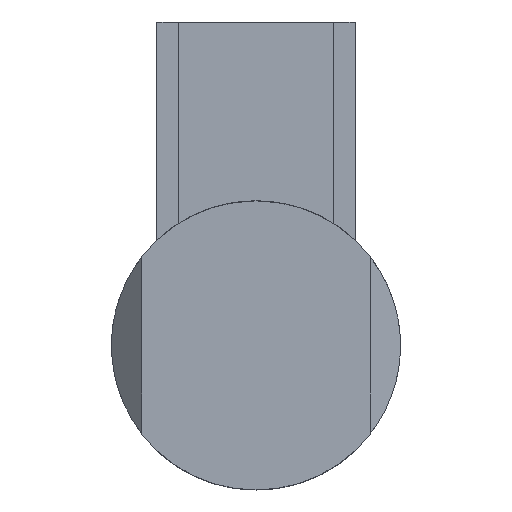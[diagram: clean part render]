
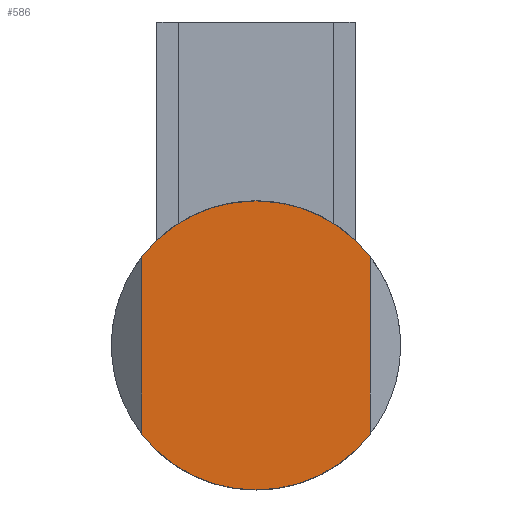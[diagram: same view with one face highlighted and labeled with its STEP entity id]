
A CAD part, front view. The second image highlights one B-rep face of the part: STEP entity #586.
In plain terms, the highlighted planar face has unit normal (0, -1, 0).
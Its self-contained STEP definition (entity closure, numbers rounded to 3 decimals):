
#18 = DIRECTION ( 'NONE',  ( 0., 1., 0. ) ) ;
#32 = CIRCLE ( 'NONE', #551, 7.15 ) ;
#36 = LINE ( 'NONE', #685, #842 ) ;
#124 = AXIS2_PLACEMENT_3D ( 'NONE', #249, #395, #825 ) ;
#169 = ORIENTED_EDGE ( 'NONE', *, *, #721, .F. ) ;
#211 = DIRECTION ( 'NONE',  ( 0., 0., 1. ) ) ;
#213 = CARTESIAN_POINT ( 'NONE',  ( -5.65, -6., 4.382 ) ) ;
#218 = DIRECTION ( 'NONE',  ( 0., 0., -1. ) ) ;
#249 = CARTESIAN_POINT ( 'NONE',  ( 0., -6., 0. ) ) ;
#255 = VECTOR ( 'NONE', #604, 1000. ) ;
#259 = EDGE_CURVE ( 'NONE', #836, #450, #32, .T. ) ;
#268 = CARTESIAN_POINT ( 'NONE',  ( 0., -6., 0. ) ) ;
#270 = FACE_OUTER_BOUND ( 'NONE', #453, .T. ) ;
#286 = VERTEX_POINT ( 'NONE', #674 ) ;
#301 = CARTESIAN_POINT ( 'NONE',  ( 5.65, -6., -4.382 ) ) ;
#309 = AXIS2_PLACEMENT_3D ( 'NONE', #436, #18, #511 ) ;
#311 = CIRCLE ( 'NONE', #309, 7.15 ) ;
#317 = VERTEX_POINT ( 'NONE', #337 ) ;
#318 = EDGE_CURVE ( 'NONE', #317, #286, #765, .T. ) ;
#327 = EDGE_CURVE ( 'NONE', #450, #526, #746, .T. ) ;
#337 = CARTESIAN_POINT ( 'NONE',  ( 0., -6., 7.15 ) ) ;
#342 = DIRECTION ( 'NONE',  ( 0., 1., 0. ) ) ;
#350 = ORIENTED_EDGE ( 'NONE', *, *, #682, .T. ) ;
#363 = ORIENTED_EDGE ( 'NONE', *, *, #327, .F. ) ;
#395 = DIRECTION ( 'NONE',  ( 0., 1., 0. ) ) ;
#434 = LINE ( 'NONE', #456, #255 ) ;
#435 = ORIENTED_EDGE ( 'NONE', *, *, #259, .F. ) ;
#436 = CARTESIAN_POINT ( 'NONE',  ( 0., -6., 0. ) ) ;
#438 = ORIENTED_EDGE ( 'NONE', *, *, #596, .T. ) ;
#450 = VERTEX_POINT ( 'NONE', #750 ) ;
#453 = EDGE_LOOP ( 'NONE', ( #169, #350, #363, #435, #438, #489 ) ) ;
#456 = CARTESIAN_POINT ( 'NONE',  ( 5.65, -6., 0. ) ) ;
#478 = DIRECTION ( 'NONE',  ( 0., 1., 0. ) ) ;
#480 = DIRECTION ( 'NONE',  ( 0., 0., 1. ) ) ;
#489 = ORIENTED_EDGE ( 'NONE', *, *, #318, .F. ) ;
#493 = AXIS2_PLACEMENT_3D ( 'NONE', #628, #673, #211 ) ;
#511 = DIRECTION ( 'NONE',  ( 0., 0., 1. ) ) ;
#513 = AXIS2_PLACEMENT_3D ( 'NONE', #780, #478, #480 ) ;
#526 = VERTEX_POINT ( 'NONE', #808 ) ;
#547 = DIRECTION ( 'NONE',  ( 0., 0., 1. ) ) ;
#551 = AXIS2_PLACEMENT_3D ( 'NONE', #268, #342, #547 ) ;
#586 = ADVANCED_FACE ( 'NONE', ( #270 ), #784, .F. ) ;
#596 = EDGE_CURVE ( 'NONE', #836, #286, #434, .T. ) ;
#604 = DIRECTION ( 'NONE',  ( 0., 0., 1. ) ) ;
#628 = CARTESIAN_POINT ( 'NONE',  ( 0., -6., 0. ) ) ;
#671 = VERTEX_POINT ( 'NONE', #213 ) ;
#673 = DIRECTION ( 'NONE',  ( 0., 1., 0. ) ) ;
#674 = CARTESIAN_POINT ( 'NONE',  ( 5.65, -6., 4.382 ) ) ;
#682 = EDGE_CURVE ( 'NONE', #671, #526, #36, .T. ) ;
#685 = CARTESIAN_POINT ( 'NONE',  ( -5.65, -6., 0. ) ) ;
#721 = EDGE_CURVE ( 'NONE', #671, #317, #311, .T. ) ;
#746 = CIRCLE ( 'NONE', #493, 7.15 ) ;
#750 = CARTESIAN_POINT ( 'NONE',  ( 0., -6., -7.15 ) ) ;
#765 = CIRCLE ( 'NONE', #513, 7.15 ) ;
#780 = CARTESIAN_POINT ( 'NONE',  ( 0., -6., 0. ) ) ;
#784 = PLANE ( 'NONE',  #124 ) ;
#808 = CARTESIAN_POINT ( 'NONE',  ( -5.65, -6., -4.382 ) ) ;
#825 = DIRECTION ( 'NONE',  ( 0., 0., 1. ) ) ;
#836 = VERTEX_POINT ( 'NONE', #301 ) ;
#842 = VECTOR ( 'NONE', #218, 1000. ) ;
